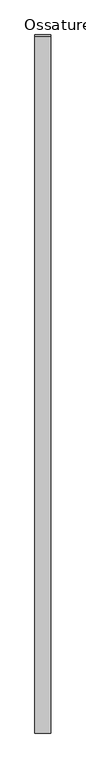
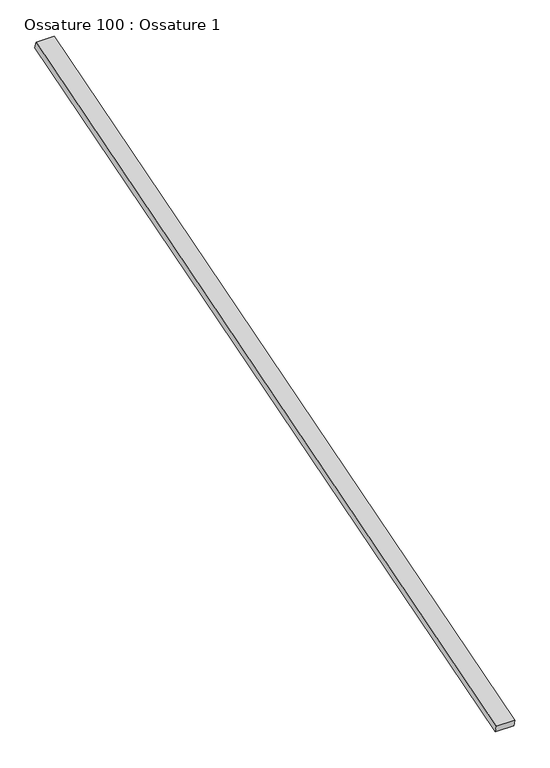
"""IFC4 building model written with IfcOpenShell, lengths in millimetres: beam geometry, Ossature 100 : Ossature 1."""

from ifc_helpers import new_model, si_unit, frame, origin, place, context, project, spatial, polyline, outline, extrude, source, transform, mapped, element, save


def ossature_100_ossature_1_0987ae68(model_context):
    return source(origin(), model_context, "Body", "SweptSolid", [
        extrude(outline(polyline([(0.0, 0.0), (0.0, -4543.0299679), (-100.0, -4543.0299679), (-100.0, 0.0), (0.0, 0.0)])), frame((24095.6466393, -833.3913565, 8153.6336115), z_axis=(0.0, -0.28734788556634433, 0.9578262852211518), x_axis=(-1.0, 0.0, 0.0)), (0.0, 0.0, 1.0), 40.0),
    ])


if __name__ == "__main__":
    model = new_model("IFC4")
    model_context = context("Model", 3, world=origin())
    ifc_project = project(units=[si_unit("LENGTHUNIT", "METRE", prefix="MILLI")], contexts=[model_context])
    site = spatial("IfcSite", under=ifc_project)
    building = spatial("IfcBuilding", under=site)
    placement = place(None, origin())
    ossature_100_ossature_1_shape = ossature_100_ossature_1_0987ae68(model_context)
    element("IfcBeam", 1, ObjectType="Ossature 100 : Ossature 1", at=placement, inside=building, context=model_context, shape_type="MappedRepresentation", body=[
        mapped(ossature_100_ossature_1_shape, transform((0.0, 0.0, 0.0), x_axis=(1.0, 0.0, 0.0), y_axis=(0.0, 1.0, 0.0), z_axis=(0.0, 0.0, 1.0))),
    ])
    save(model, "model.ifc")
